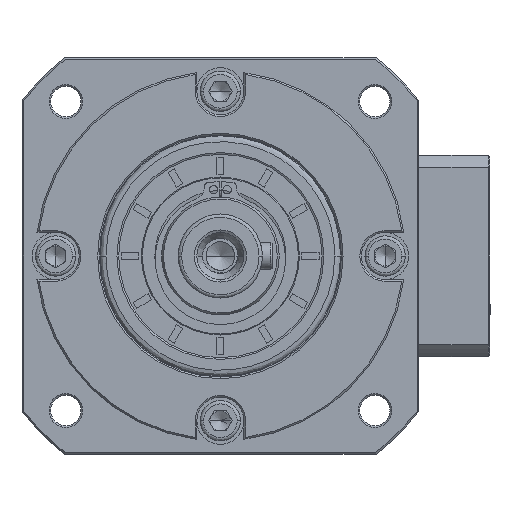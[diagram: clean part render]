
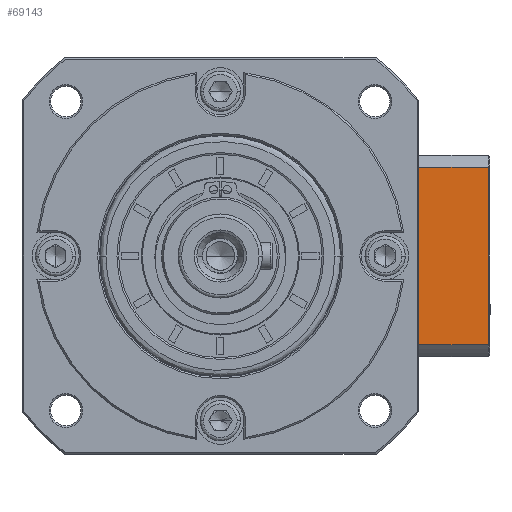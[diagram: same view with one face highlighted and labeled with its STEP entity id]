
A CAD part, left-side view. The second image highlights one B-rep face of the part: STEP entity #69143.
In plain terms, the highlighted planar face has unit normal (-1, 0, 0).
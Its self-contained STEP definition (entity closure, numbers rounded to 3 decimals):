
#1484 = CARTESIAN_POINT ( 'NONE',  ( -59.255, -107.281, -58.138 ) ) ;
#3971 = CARTESIAN_POINT ( 'NONE',  ( -59.255, -103.83, -63.689 ) ) ;
#8461 = EDGE_CURVE ( 'NONE', #12736, #149280, #105265, .T. ) ;
#10776 = CARTESIAN_POINT ( 'NONE',  ( -59.255, -87.781, -114.596 ) ) ;
#12736 = VERTEX_POINT ( 'NONE', #160207 ) ;
#16612 = EDGE_CURVE ( 'NONE', #38759, #99134, #163868, .T. ) ;
#18836 = EDGE_CURVE ( 'NONE', #141279, #12736, #144508, .T. ) ;
#23083 = CARTESIAN_POINT ( 'NONE',  ( -59.255, -102.281, -58.138 ) ) ;
#25164 = DIRECTION ( 'NONE',  ( 0., 1., 0. ) ) ;
#27061 = CARTESIAN_POINT ( 'NONE',  ( -59.255, -129.981, -114.596 ) ) ;
#31222 = LINE ( 'NONE', #175873, #137020 ) ;
#32663 = ORIENTED_EDGE ( 'NONE', *, *, #150094, .F. ) ;
#34020 = ORIENTED_EDGE ( 'NONE', *, *, #16612, .F. ) ;
#34647 = ORIENTED_EDGE ( 'NONE', *, *, #72526, .F. ) ;
#35618 = EDGE_LOOP ( 'NONE', ( #95543, #34647, #154279, #134754, #32663, #78809, #34020, #89847 ) ) ;
#37366 = VERTEX_POINT ( 'NONE', #55032 ) ;
#38518 = CARTESIAN_POINT ( 'NONE',  ( -59.255, -129.981, -111.053 ) ) ;
#38759 = VERTEX_POINT ( 'NONE', #120405 ) ;
#39144 = VECTOR ( 'NONE', #119637, 1000. ) ;
#39865 = AXIS2_PLACEMENT_3D ( 'NONE', #27061, #123578, #40956 ) ;
#40956 = DIRECTION ( 'NONE',  ( 0., 1., 0. ) ) ;
#41950 = CARTESIAN_POINT ( 'NONE',  ( -59.255, -105.504, -108.309 ) ) ;
#45608 = CARTESIAN_POINT ( 'NONE',  ( -59.255, -105.504, -60.883 ) ) ;
#50398 = EDGE_CURVE ( 'NONE', #99134, #123702, #31222, .T. ) ;
#55032 = CARTESIAN_POINT ( 'NONE',  ( -59.255, -129.481, -111.053 ) ) ;
#55713 = CARTESIAN_POINT ( 'NONE',  ( -59.255, -103.03, -104.078 ) ) ;
#59413 = CARTESIAN_POINT ( 'NONE',  ( -59.255, -107.281, -58.138 ) ) ;
#69143 = ADVANCED_FACE ( 'NONE', ( #133524 ), #122988, .F. ) ;
#71015 = CARTESIAN_POINT ( 'NONE',  ( -59.255, -129.981, -66.568 ) ) ;
#72526 = EDGE_CURVE ( 'NONE', #149280, #130161, #168599, .T. ) ;
#72537 = CARTESIAN_POINT ( 'NONE',  ( -59.255, -102.281, -102.624 ) ) ;
#78809 = ORIENTED_EDGE ( 'NONE', *, *, #50398, .F. ) ;
#89847 = ORIENTED_EDGE ( 'NONE', *, *, #138007, .F. ) ;
#91336 = CARTESIAN_POINT ( 'NONE',  ( -59.255, -87.781, -102.624 ) ) ;
#93155 = LINE ( 'NONE', #124182, #121246 ) ;
#95543 = ORIENTED_EDGE ( 'NONE', *, *, #177670, .T. ) ;
#98813 = LINE ( 'NONE', #10776, #131253 ) ;
#99134 = VERTEX_POINT ( 'NONE', #72537 ) ;
#100475 = CARTESIAN_POINT ( 'NONE',  ( -59.255, -103.03, -65.113 ) ) ;
#105265 = B_SPLINE_CURVE_WITH_KNOTS ( 'NONE', 3,
 ( #128262, #100475, #3971, #45608, #142162, #59413 ),
 .UNSPECIFIED., .F., .F.,
 ( 4, 2, 4 ),
 ( 0., 0.005, 0.01 ),
 .UNSPECIFIED. ) ;
#110668 = CARTESIAN_POINT ( 'NONE',  ( -59.255, -107.281, -111.053 ) ) ;
#111252 = DIRECTION ( 'NONE',  ( 0., 1., 0. ) ) ;
#115289 = CARTESIAN_POINT ( 'NONE',  ( -59.255, -87.781, -66.568 ) ) ;
#119637 = DIRECTION ( 'NONE',  ( 0., -1., 0. ) ) ;
#120405 = CARTESIAN_POINT ( 'NONE',  ( -59.255, -107.281, -111.053 ) ) ;
#121246 = VECTOR ( 'NONE', #165168, 1000. ) ;
#122988 = PLANE ( 'NONE',  #39865 ) ;
#123578 = DIRECTION ( 'NONE',  ( 1., 0., 0. ) ) ;
#123702 = VERTEX_POINT ( 'NONE', #91336 ) ;
#124182 = CARTESIAN_POINT ( 'NONE',  ( -59.255, -129.481, -117.096 ) ) ;
#124573 = CARTESIAN_POINT ( 'NONE',  ( -59.255, -106.379, -109.689 ) ) ;
#128262 = CARTESIAN_POINT ( 'NONE',  ( -59.255, -102.281, -66.568 ) ) ;
#130161 = VERTEX_POINT ( 'NONE', #150155 ) ;
#131253 = VECTOR ( 'NONE', #148896, 1000. ) ;
#133524 = FACE_OUTER_BOUND ( 'NONE', #35618, .T. ) ;
#134754 = ORIENTED_EDGE ( 'NONE', *, *, #18836, .F. ) ;
#137020 = VECTOR ( 'NONE', #111252, 1000. ) ;
#138007 = EDGE_CURVE ( 'NONE', #37366, #38759, #169428, .T. ) ;
#138436 = CARTESIAN_POINT ( 'NONE',  ( -59.255, -103.83, -105.503 ) ) ;
#141279 = VERTEX_POINT ( 'NONE', #115289 ) ;
#142162 = CARTESIAN_POINT ( 'NONE',  ( -59.255, -106.379, -59.502 ) ) ;
#144508 = LINE ( 'NONE', #71015, #176914 ) ;
#148896 = DIRECTION ( 'NONE',  ( 0., 0., 1. ) ) ;
#149280 = VERTEX_POINT ( 'NONE', #1484 ) ;
#150094 = EDGE_CURVE ( 'NONE', #123702, #141279, #98813, .T. ) ;
#150155 = CARTESIAN_POINT ( 'NONE',  ( -59.255, -129.481, -58.138 ) ) ;
#152290 = CARTESIAN_POINT ( 'NONE',  ( -59.255, -102.281, -102.624 ) ) ;
#154279 = ORIENTED_EDGE ( 'NONE', *, *, #8461, .F. ) ;
#160207 = CARTESIAN_POINT ( 'NONE',  ( -59.255, -102.281, -66.568 ) ) ;
#163868 = B_SPLINE_CURVE_WITH_KNOTS ( 'NONE', 3,
 ( #110668, #124573, #41950, #138436, #55713, #152290 ),
 .UNSPECIFIED., .F., .F.,
 ( 4, 2, 4 ),
 ( 0., 0.005, 0.01 ),
 .UNSPECIFIED. ) ;
#165026 = VECTOR ( 'NONE', #25164, 1000. ) ;
#165168 = DIRECTION ( 'NONE',  ( 0., 0., 1. ) ) ;
#167622 = DIRECTION ( 'NONE',  ( 0., -1., 0. ) ) ;
#168599 = LINE ( 'NONE', #23083, #39144 ) ;
#169428 = LINE ( 'NONE', #38518, #165026 ) ;
#175873 = CARTESIAN_POINT ( 'NONE',  ( -59.255, -129.981, -102.624 ) ) ;
#176914 = VECTOR ( 'NONE', #167622, 1000. ) ;
#177670 = EDGE_CURVE ( 'NONE', #37366, #130161, #93155, .T. ) ;
